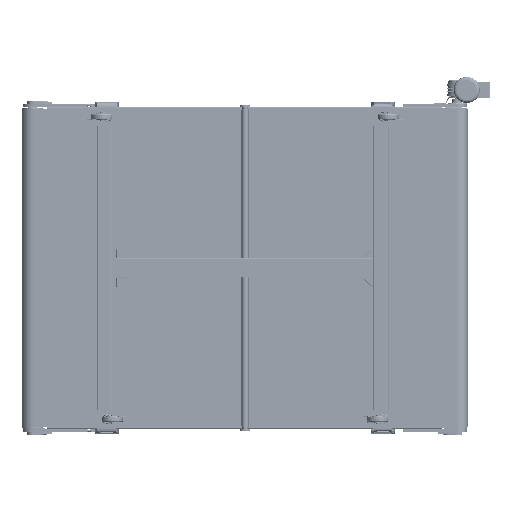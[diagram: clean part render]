
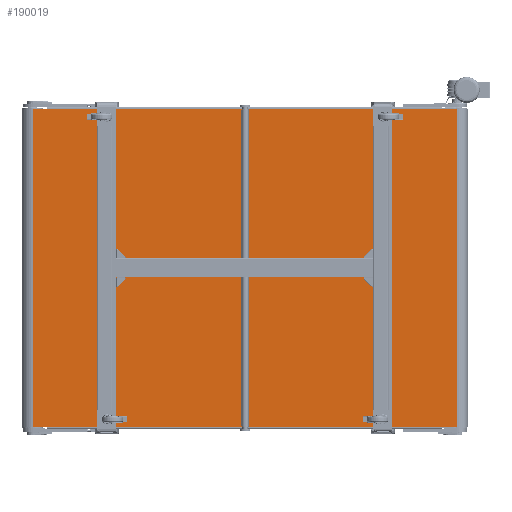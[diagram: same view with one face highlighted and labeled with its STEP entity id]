
A CAD part, front view. The second image highlights one B-rep face of the part: STEP entity #190019.
In plain terms, the highlighted planar face has unit normal (0, -1, 0).
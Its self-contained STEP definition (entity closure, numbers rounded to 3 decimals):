
#13323 = LINE ( 'NONE', #186355, #254705 ) ;
#14521 = EDGE_CURVE ( 'NONE', #180033, #124574, #26787, .T. ) ;
#19169 = EDGE_CURVE ( 'NONE', #180033, #84144, #181782, .T. ) ;
#25639 = VERTEX_POINT ( 'NONE', #220677 ) ;
#26787 = LINE ( 'NONE', #85307, #240181 ) ;
#39586 = CARTESIAN_POINT ( 'NONE',  ( 1000., -49.5, 750. ) ) ;
#58365 = ORIENTED_EDGE ( 'NONE', *, *, #215213, .F. ) ;
#59638 = CARTESIAN_POINT ( 'NONE',  ( -1000., -49.5, 750. ) ) ;
#74782 = DIRECTION ( 'NONE',  ( 0., 0., 1. ) ) ;
#84144 = VERTEX_POINT ( 'NONE', #135250 ) ;
#85307 = CARTESIAN_POINT ( 'NONE',  ( -1000., -49.5, 750. ) ) ;
#88268 = LINE ( 'NONE', #206601, #242655 ) ;
#105395 = CARTESIAN_POINT ( 'NONE',  ( -1000., -49.5, 750. ) ) ;
#124574 = VERTEX_POINT ( 'NONE', #39586 ) ;
#130743 = DIRECTION ( 'NONE',  ( 0., 1., 0. ) ) ;
#135250 = CARTESIAN_POINT ( 'NONE',  ( -1000., -49.5, -750. ) ) ;
#151185 = DIRECTION ( 'NONE',  ( 1., 0., 0. ) ) ;
#158448 = DIRECTION ( 'NONE',  ( 0., 0., -1. ) ) ;
#174852 = FACE_OUTER_BOUND ( 'NONE', #182046, .T. ) ;
#180033 = VERTEX_POINT ( 'NONE', #105395 ) ;
#181782 = LINE ( 'NONE', #59638, #195342 ) ;
#182046 = EDGE_LOOP ( 'NONE', ( #219667, #58365, #199593, #250586 ) ) ;
#186355 = CARTESIAN_POINT ( 'NONE',  ( -1000., -49.5, -750. ) ) ;
#187083 = DIRECTION ( 'NONE',  ( 0., 0., -1. ) ) ;
#189251 = PLANE ( 'NONE',  #242962 ) ;
#190019 = ADVANCED_FACE ( 'NONE', ( #174852 ), #189251, .F. ) ;
#195342 = VECTOR ( 'NONE', #158448, 1000. ) ;
#199593 = ORIENTED_EDGE ( 'NONE', *, *, #14521, .F. ) ;
#206202 = DIRECTION ( 'NONE',  ( 1., 0., 0. ) ) ;
#206601 = CARTESIAN_POINT ( 'NONE',  ( 1000., -49.5, 750. ) ) ;
#213884 = EDGE_CURVE ( 'NONE', #84144, #25639, #13323, .T. ) ;
#215213 = EDGE_CURVE ( 'NONE', #124574, #25639, #88268, .T. ) ;
#219667 = ORIENTED_EDGE ( 'NONE', *, *, #213884, .T. ) ;
#220677 = CARTESIAN_POINT ( 'NONE',  ( 1000., -49.5, -750. ) ) ;
#229591 = CARTESIAN_POINT ( 'NONE',  ( -1000., -49.5, 750. ) ) ;
#240181 = VECTOR ( 'NONE', #206202, 1000. ) ;
#242655 = VECTOR ( 'NONE', #187083, 1000. ) ;
#242962 = AXIS2_PLACEMENT_3D ( 'NONE', #229591, #130743, #74782 ) ;
#250586 = ORIENTED_EDGE ( 'NONE', *, *, #19169, .T. ) ;
#254705 = VECTOR ( 'NONE', #151185, 1000. ) ;
